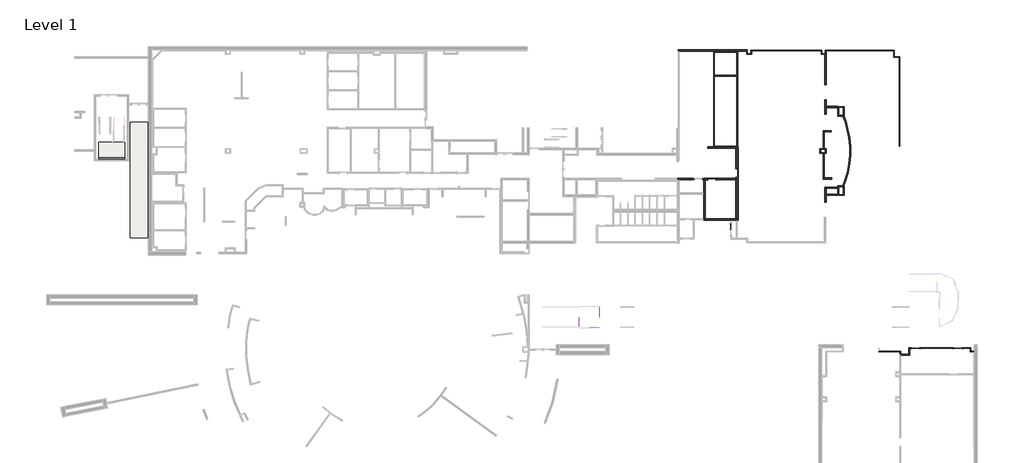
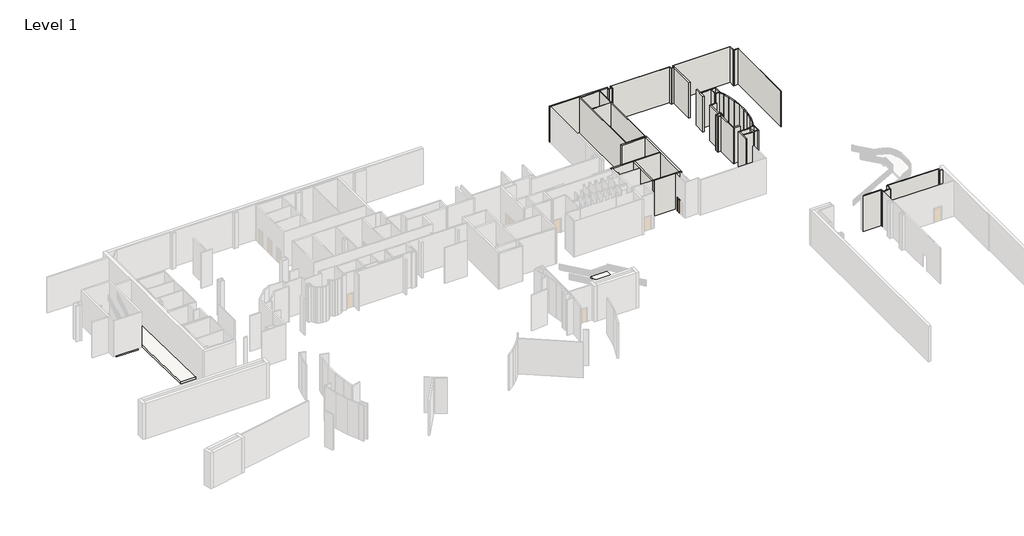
# One storey, part 9 of 10: 60 walls, 5 doors, 4 slabs.
"""IFC4 building model written with IfcOpenShell, lengths in millimetres."""

from ifc_helpers import new_model, si_unit, frame, origin, origin_with_axes, place, context, project, spatial, polyline, outline, extrude, faceted_brep, transform, mapped, element, save
from components import door_808f2bda, door_4e5f50bf, door_9fd2ff77, door_71d5d1be, door_6831372b

model = new_model("IFC4")

# Units and contexts
model_context = context("Model", 3, world=origin())
ifc_project = project(units=[si_unit("LENGTHUNIT", "METRE", prefix="MILLI")], contexts=[model_context])

# Site, building, storey
site = spatial("IfcSite", under=ifc_project)
building = spatial("IfcBuilding", under=site)
storey = spatial("IfcBuildingStorey", under=building, Name="Level 1", Elevation=0.0)

# Doors
placement = place(None, origin())
door_shape = door_808f2bda(model_context)
element("IfcDoor", 1, ObjectType="Single-Flush : 30\" x 80\"", at=placement, inside=storey, context=model_context, shape_type="MappedRepresentation", body=[
    mapped(door_shape, transform((67632.9724216, 16158.9853474, 0.0), x_axis=(0.0, 1.0, 0.0), y_axis=(-1.0, 0.0, 0.0), z_axis=(0.0, 0.0, 1.0))),
])
door_2_shape = door_4e5f50bf(model_context)
element("IfcDoor", 2, ObjectType="Single-Flush : 36\" x 84\"", at=placement, inside=storey, context=model_context, shape_type="MappedRepresentation", body=[
    mapped(door_2_shape, transform((68357.9044789, 22788.3853087, 0.0), x_axis=(0.0, -1.0, 0.0), y_axis=(1.0, 0.0, 0.0), z_axis=(0.0, 0.0, 1.0))),
])
door_3_shape = door_9fd2ff77(model_context)
element("IfcDoor", 3, ObjectType="Single-Flush : 36\" x 84\"", at=placement, inside=storey, context=model_context, shape_type="MappedRepresentation", body=[
    mapped(door_3_shape, transform((65277.1224216, 22026.3853087, 0.0), x_axis=(-1.0, 0.0, 0.0), y_axis=(0.0, -1.0, 0.0), z_axis=(0.0, 0.0, 1.0))),
])
door_4_shape = door_71d5d1be(model_context)
element("IfcDoor", 4, ObjectType="Single-Flush : 36\" x 84\"", at=placement, inside=storey, context=model_context, shape_type="MappedRepresentation", body=[
    mapped(door_4_shape, transform((90266.9450601, 1269.6986918, 0.0), x_axis=(-1.0, 0.0, 0.0), y_axis=(0.0, -1.0, 0.0), z_axis=(0.0, 0.0, 1.0))),
])
door_5_shape = door_6831372b(model_context)
element("IfcDoor", 5, ObjectType="Single-Flush : 36\" x 84\"", at=placement, inside=storey, context=model_context, shape_type="MappedRepresentation", body=[
    mapped(door_5_shape, transform((95490.4224216, 1269.6986918, 0.0), x_axis=(1.0, 0.0, 0.0), y_axis=(0.0, 1.0, 0.0), z_axis=(0.0, 0.0, 1.0))),
])

# Slabs
element("IfcSlab", 6, ObjectType="Generic - 12\"", at=placement, inside=storey, context=model_context, shape_type="SweptSolid", body=[
    extrude(outline(polyline([(49008.9536092, 6384.9429434), (51421.9536092, 6384.9429434), (51421.9536092, 3781.4430198), (49008.9536092, 3781.4430198), (49008.9536092, 6384.9429434)])), frame((0.0, 0.0, 2171.7), z_axis=(0.0, 0.0, 1.0), x_axis=(1.0, 0.0, 0.0)), (0.0, 0.0, 1.0), 304.8),
])
element("IfcSlab", 7, ObjectType="Generic - 12\"", at=placement, inside=storey, context=model_context, shape_type="SweptSolid", body=[
    extrude(outline(polyline([(-10007.6851755, 24718.0763821), (-10007.6851755, 26551.8305304), (-6807.2851755, 26551.8305304), (-6807.2851755, 24718.0763821), (-10007.6851755, 24718.0763821)])), frame((0.0, 0.0, -304.8), z_axis=(0.0, 0.0, 1.0), x_axis=(1.0, 0.0, 0.0)), (0.0, 0.0, 1.0), 304.8),
])
element("IfcSlab", 8, ObjectType="Generic - 12\"", at=placement, inside=storey, context=model_context, shape_type="SweptSolid", body=[
    extrude(outline(polyline([(-6807.2851755, 26551.8305304), (-6807.2851755, 24463.0140388), (-10007.6851755, 24463.0140388), (-10007.6851755, 26551.8305304), (-6807.2851755, 26551.8305304)])), frame((0.0, 0.0, -304.8), z_axis=(0.0, 0.0, 1.0), x_axis=(1.0, 0.0, 0.0)), (0.0, 0.0, 1.0), 304.8),
])
element("IfcSlab", 9, ObjectType="Generic - 12\"", at=placement, inside=storey, context=model_context, shape_type="SweptSolid", body=[
    extrude(outline(polyline([(29036.2594628, -304.8699716), (14812.2594628, -0.0699716), (14812.2594628, 304.8), (29036.2594628, 0.0), (29036.2594628, -304.8699716)])), frame((-6130.5809909, 0.0, 0.0), z_axis=(1.0, 0.0, 0.0), x_axis=(0.0, 1.0, 0.0)), (0.0, 0.0, 1.0), 2194.2909125),
])

# Walls
element("IfcWall", 10, ObjectType="N15A/B", at=placement, inside=storey, context=model_context, shape_type="SweptSolid", body=[
    extrude(outline(polyline([(81738.8043788, 21851.4343495), (81482.3787882, 21183.4228475), (81349.7442594, 21183.4228475), (81621.266332, 21890.7620298), (81738.8043788, 21851.4343495)])), origin_with_axes(), (0.0, 0.0, 1.0), 5486.4),
])
element("IfcWall", 11, ObjectType="N15A/B", at=placement, inside=storey, context=model_context, shape_type="SweptSolid", body=[
    extrude(outline(polyline([(82006.4890056, 22784.9615834), (81738.8043788, 21851.4343495), (81621.266332, 21890.7620298), (81885.6720569, 22812.8543738), (82006.4890056, 22784.9615834)])), origin_with_axes(), (0.0, 0.0, 1.0), 5486.4),
])
element("IfcWall", 12, ObjectType="N15A/B", at=placement, inside=storey, context=model_context, shape_type="SweptSolid", body=[
    extrude(outline(polyline([(82205.9077413, 23915.9214335), (82006.4890056, 22784.9615834), (81885.6720569, 22812.8543738), (82083.2130554, 23933.1650471), (82205.9077413, 23915.9214335)])), origin_with_axes(), (0.0, 0.0, 1.0), 5486.4),
])
element("IfcWall", 13, ObjectType="N15A/B", at=placement, inside=storey, context=model_context, shape_type="SweptSolid", body=[
    extrude(outline(polyline([(82312.673817, 24931.7327894), (82205.9077413, 23915.9214335), (82083.2130554, 23933.1650471), (82188.848817, 24938.2221826), (82312.673817, 24931.7327894)])), origin_with_axes(), (0.0, 0.0, 1.0), 5486.4),
])
element("IfcWall", 14, ObjectType="N15A/B", at=placement, inside=storey, context=model_context, shape_type="SweptSolid", body=[
    extrude(outline(polyline([(82312.673817, 26030.4221826), (82312.673817, 24931.7327894), (82188.848817, 24938.2221826), (82188.848817, 26023.9327894), (82312.673817, 26030.4221826)])), origin_with_axes(), (0.0, 0.0, 1.0), 5486.4),
])
element("IfcWall", 15, ObjectType="N15A/B", at=placement, inside=storey, context=model_context, shape_type="SweptSolid", body=[
    extrude(outline(polyline([(82195.2310864, 27147.8151247), (82312.673817, 26030.4221826), (82188.848817, 26023.9327894), (82072.6495266, 27129.4951878), (82195.2310864, 27147.8151247)])), origin_with_axes(), (0.0, 0.0, 1.0), 5486.4),
])
element("IfcWall", 16, ObjectType="N15A/B", at=placement, inside=storey, context=model_context, shape_type="SweptSolid", body=[
    extrude(outline(polyline([(81985.7979278, 28225.2553214), (82195.2310864, 27147.8151247), (82072.6495266, 27129.4951878), (81865.2795156, 28196.3214106), (81985.7979278, 28225.2553214)])), origin_with_axes(), (0.0, 0.0, 1.0), 5486.4),
])
element("IfcWall", 17, ObjectType="N15A/B", at=placement, inside=storey, context=model_context, shape_type="SweptSolid", body=[
    extrude(outline(polyline([(81746.5655428, 29059.5577964), (81985.7979278, 28225.2553214), (81865.2795156, 28196.3214106), (81628.4310597, 29022.3101369), (81746.5655428, 29059.5577964)])), origin_with_axes(), (0.0, 0.0, 1.0), 5486.4),
])
element("IfcWall", 18, ObjectType="N15A/B", at=placement, inside=storey, context=model_context, shape_type="SweptSolid", body=[
    extrude(outline(polyline([(81502.4148661, 29768.6228475), (81746.5655428, 29059.5577964), (81628.4310597, 29022.3101369), (81371.4549852, 29768.6228475), (81502.4148661, 29768.6228475)])), origin_with_axes(), (0.0, 0.0, 1.0), 5486.4),
])
element("IfcWall", 19, ObjectType="N15A/B", at=placement, inside=storey, context=model_context, shape_type="SweptSolid", body=[
    extrude(outline(polyline([(80721.9099216, 30816.3349813), (79299.5099216, 30816.3349813), (79299.5099216, 30940.1599813), (80721.9099216, 30940.1599813), (80721.9099216, 30816.3349813)])), origin_with_axes(), (0.0, 0.0, 1.0), 5486.4),
])
element("IfcWall", 20, ObjectType="N16B/C", at=placement, inside=storey, context=model_context, shape_type="SweptSolid", body=[
    extrude(outline(polyline([(79971.0224216, 22030.6772222), (79056.6224216, 22030.6772222), (79056.6224216, 22214.8272222), (79971.0224216, 22214.8272222), (79971.0224216, 22030.6772222)])), origin_with_axes(), (0.0, 0.0, 1.0), 5486.4),
])
element("IfcWall", 21, ObjectType="N15A/B", at=placement, inside=storey, context=model_context, shape_type="Brep", body=[
    faceted_brep([(79324.3544789, 20015.0228475, 0.0), (80733.4365238, 20015.0228475, 0.0), (80733.4365238, 20015.0228475, 5486.4), (79324.3544789, 20015.0228475, 5486.4), (79324.3544789, 20138.8478475, 0.0), (79324.3544789, 20138.8478475, 5486.4), (80733.4365238, 20138.8478475, 5486.4), (80733.4365238, 20138.8478475, 0.0), (80733.4365238, 20022.9603475, 0.0), (80733.4365238, 20022.9603475, 5486.4)], [[[0, 1, 2, 3]], [[4, 5, 6, 7]], [[1, 0, 4, 7, 8]], [[3, 2, 9, 6, 5]], [[0, 3, 5, 4]], [[2, 1, 8, 7, 6, 9]]]),
])
element("IfcWall", 22, ObjectType="N15A/B", at=placement, inside=storey, context=model_context, shape_type="SweptSolid", body=[
    extrude(outline(polyline([(80733.4365238, 20895.5594629), (79299.5099216, 20895.5594629), (79299.5099216, 21019.3844629), (80733.4365238, 21019.3844629), (80733.4365238, 20895.5594629)])), origin_with_axes(), (0.0, 0.0, 1.0), 5486.4),
])
element("IfcWall", 23, ObjectType="F1A", at=placement, inside=storey, context=model_context, shape_type="Brep", body=[
    faceted_brep([(70141.2224216, 37807.7228475, 0.0), (78689.9099216, 37807.7228475, 0.0), (78769.2849216, 37807.7228475, 0.0), (78769.2849216, 37807.7228475, 5486.4), (78689.9099216, 37807.7228475, 5486.4), (70141.2224216, 37807.7228475, 5486.4), (70141.2224216, 37864.8728475, 0.0), (70141.2224216, 37864.8728475, 5486.4), (78769.2849216, 37864.8728475, 5486.4), (78769.2849216, 37864.8728475, 0.0)], [[[0, 1, 2, 3, 4, 5]], [[6, 7, 8, 9]], [[2, 1, 0, 6, 9]], [[5, 4, 3, 8, 7]], [[3, 2, 9, 8]], [[0, 5, 7, 6]]]),
])
element("IfcWall", 24, ObjectType="F1A", at=placement, inside=storey, context=model_context, shape_type="Brep", body=[
    faceted_brep([(79220.1349216, 37807.7228475, 0.0), (79299.5099216, 37807.7228475, 0.0), (87605.3099216, 37807.7228475, 0.0), (87605.3099216, 37807.7228475, 5486.4), (79299.5099216, 37807.7228475, 5486.4), (79220.1349216, 37807.7228475, 5486.4), (79220.1349216, 37864.8728475, 0.0), (79220.1349216, 37864.8728475, 5486.4), (87605.3099216, 37864.8728475, 5486.4), (87605.3099216, 37864.8728475, 0.0)], [[[0, 1, 2, 3, 4, 5]], [[6, 7, 8, 9]], [[2, 1, 0, 6, 9]], [[5, 4, 3, 8, 7]], [[0, 5, 7, 6]], [[3, 2, 9, 8]]]),
])
element("IfcWall", 25, ObjectType="F1A", at=placement, inside=storey, context=model_context, shape_type="SweptSolid", body=[
    extrude(outline(polyline([(88278.4099216, 26085.6228465), (88278.4099216, 36963.1728476), (88335.5599216, 36963.1728476), (88335.5599216, 26085.6228465), (88278.4099216, 26085.6228465)])), origin_with_axes(), (0.0, 0.0, 1.0), 5486.4),
])
element("IfcWall", 26, ObjectType="F1B", at=placement, inside=storey, context=model_context, shape_type="Brep", body=[
    faceted_brep([(95998.4224216, 1230.0111918, 2133.6), (95998.4224216, 1230.0111918, 0.0), (96974.7349216, 1230.0111918, 0.0), (97054.1099216, 1230.0111918, 0.0), (97054.1099216, 1230.0111918, 5486.4), (96974.7349216, 1230.0111918, 5486.4), (89558.9200601, 1230.0111918, 5486.4), (89558.9200601, 1230.0111918, 0.0), (89758.9450601, 1230.0111918, 0.0), (89758.9450601, 1230.0111918, 2133.6), (90774.9450601, 1230.0111918, 2133.6), (90774.9450601, 1230.0111918, 0.0), (94982.4224216, 1230.0111918, 0.0), (94982.4224216, 1230.0111918, 2133.6), (97054.1099216, 1309.3861918, 0.0), (95998.4224216, 1309.3861918, 0.0), (95998.4224216, 1309.3861918, 2133.6), (94982.4224216, 1309.3861918, 2133.6), (94982.4224216, 1309.3861918, 0.0), (90774.9450601, 1309.3861918, 0.0), (90774.9450601, 1309.3861918, 2133.6), (89758.9450601, 1309.3861918, 2133.6), (89758.9450601, 1309.3861918, 0.0), (89558.9200601, 1309.3861918, 0.0), (89558.9200601, 1309.3861918, 5486.4), (97054.1099216, 1309.3861918, 5486.4)], [[[0, 1, 2, 3, 4, 5, 6, 7, 8, 9, 10, 11, 12, 13]], [[14, 15, 16, 17, 18, 19, 20, 21, 22, 23, 24, 25]], [[23, 22, 8, 7]], [[3, 2, 1, 15, 14]], [[12, 11, 19, 18]], [[6, 5, 4, 25, 24]], [[4, 3, 14, 25]], [[7, 6, 24, 23]], [[9, 8, 22, 21]], [[10, 9, 21, 20]], [[11, 10, 20, 19]], [[16, 15, 1, 0]], [[17, 16, 0, 13]], [[18, 17, 13, 12]]]),
])
element("IfcWall", 27, ObjectType="F1B", at=placement, inside=storey, context=model_context, shape_type="Brep", body=[
    faceted_brep([(96974.7349216, 1230.0111918, 0.0), (96974.7349216, 810.9111918, 0.0), (96974.7349216, 810.9111918, 5486.4), (96974.7349216, 1230.0111918, 5486.4), (97054.1099216, 1230.0111918, 0.0), (97054.1099216, 1230.0111918, 5486.4), (97054.1099216, 890.2861918, 5486.4), (97054.1099216, 810.9111918, 5486.4), (97054.1099216, 810.9111918, 0.0), (97054.1099216, 890.2861918, 0.0)], [[[0, 1, 2, 3]], [[4, 5, 6, 7, 8, 9]], [[1, 0, 4, 9, 8]], [[3, 2, 7, 6, 5]], [[2, 1, 8, 7]], [[0, 3, 5, 4]]]),
])
element("IfcWall", 28, ObjectType="F1B", at=placement, inside=storey, context=model_context, shape_type="Brep", body=[
    faceted_brep([(97054.1099216, 810.9111918, 0.0), (97419.2349216, 810.9111918, 0.0), (97476.3849216, 810.9111918, 0.0), (97476.3849216, 810.9111918, 5486.4), (97419.2349216, 810.9111918, 5486.4), (97054.1099216, 810.9111918, 5486.4), (97054.1099216, 890.2861918, 0.0), (97054.1099216, 890.2861918, 5486.4), (97476.3849216, 890.2861918, 5486.4), (97476.3849216, 890.2861918, 0.0)], [[[0, 1, 2, 3, 4, 5]], [[6, 7, 8, 9]], [[2, 1, 0, 6, 9]], [[5, 4, 3, 8, 7]], [[3, 2, 9, 8]], [[0, 5, 7, 6]]]),
])
element("IfcWall", 29, ObjectType="F1B", at=placement, inside=storey, context=model_context, shape_type="Brep", body=[
    faceted_brep([(87605.3099216, 37871.2228475, 0.0), (87605.3099216, 37864.8728475, 0.0), (87605.3099216, 37807.7228475, 0.0), (87605.3099216, 36963.1728476, 0.0), (87605.3099216, 36963.1728476, 5486.4), (87605.3099216, 37807.7228475, 5486.4), (87605.3099216, 37864.8728475, 5486.4), (87605.3099216, 37871.2228475, 5486.4), (87684.6849216, 37871.2228475, 0.0), (87684.6849216, 37871.2228475, 5486.4), (87684.6849216, 37042.5478476, 5486.4), (87684.6849216, 36963.1728476, 5486.4), (87684.6849216, 36963.1728476, 0.0), (87684.6849216, 37042.5478476, 0.0)], [[[0, 1, 2, 3, 4, 5, 6, 7]], [[8, 9, 10, 11, 12, 13]], [[3, 2, 1, 0, 8, 13, 12]], [[7, 6, 5, 4, 11, 10, 9]], [[0, 7, 9, 8]], [[4, 3, 12, 11]]]),
])
element("IfcWall", 30, ObjectType="F1B", at=placement, inside=storey, context=model_context, shape_type="Brep", body=[
    faceted_brep([(87684.6849216, 36963.1728476, 0.0), (88278.4099216, 36963.1728476, 0.0), (88335.5599216, 36963.1728476, 0.0), (88341.9099216, 36963.1728476, 0.0), (88341.9099216, 36963.1728476, 5486.4), (88335.5599216, 36963.1728476, 5486.4), (88278.4099216, 36963.1728476, 5486.4), (87684.6849216, 36963.1728476, 5486.4), (87684.6849216, 37042.5478476, 0.0), (87684.6849216, 37042.5478476, 5486.4), (88341.9099216, 37042.5478476, 5486.4), (88341.9099216, 37042.5478476, 0.0)], [[[0, 1, 2, 3, 4, 5, 6, 7]], [[8, 9, 10, 11]], [[3, 2, 1, 0, 8, 11]], [[4, 3, 11, 10]], [[7, 6, 5, 4, 10, 9]], [[0, 7, 9, 8]]]),
])
element("IfcWall", 31, ObjectType="F1B", at=placement, inside=storey, context=model_context, shape_type="Brep", body=[
    faceted_brep([(70061.8474216, 37871.2228475, 0.0), (70061.8474216, 37442.5978474, 0.0), (70061.8474216, 37363.2228474, 0.0), (70061.8474216, 37363.2228474, 5486.4), (70061.8474216, 37442.5978474, 5486.4), (70061.8474216, 37871.2228475, 5486.4), (70141.2224216, 37871.2228475, 0.0), (70141.2224216, 37871.2228475, 5486.4), (70141.2224216, 37864.8728475, 5486.4), (70141.2224216, 37807.7228475, 5486.4), (70141.2224216, 37363.2228474, 5486.4), (70141.2224216, 37363.2228474, 0.0), (70141.2224216, 37807.7228475, 0.0), (70141.2224216, 37864.8728475, 0.0)], [[[0, 1, 2, 3, 4, 5]], [[6, 7, 8, 9, 10, 11, 12, 13]], [[2, 1, 0, 6, 13, 12, 11]], [[5, 4, 3, 10, 9, 8, 7]], [[0, 5, 7, 6]], [[3, 2, 11, 10]]]),
])
element("IfcWall", 32, ObjectType="F1B", at=placement, inside=storey, context=model_context, shape_type="Brep", body=[
    faceted_brep([(69639.5724216, 37363.2228474, 0.0), (69639.5724216, 37442.5978474, 0.0), (69639.5724216, 37728.3478474, 0.0), (69639.5724216, 37728.3478474, 5486.4), (69639.5724216, 37442.5978474, 5486.4), (69639.5724216, 37363.2228474, 5486.4), (69560.1974216, 37363.2228474, 0.0), (69560.1974216, 37363.2228474, 5486.4), (69560.1974216, 37728.3478474, 5486.4), (69560.1974216, 37728.3478474, 0.0)], [[[0, 1, 2, 3, 4, 5]], [[6, 7, 8, 9]], [[2, 1, 0, 6, 9]], [[5, 4, 3, 8, 7]], [[0, 5, 7, 6]], [[3, 2, 9, 8]]]),
])
element("IfcWall", 33, ObjectType="F1B", at=placement, inside=storey, context=model_context, shape_type="SweptSolid", body=[
    extrude(outline(polyline([(70061.8474216, 37363.2228474), (69639.5724216, 37363.2228474), (69639.5724216, 37442.5978474), (70061.8474216, 37442.5978474), (70061.8474216, 37363.2228474)])), origin_with_axes(), (0.0, 0.0, 1.0), 5486.4),
])
element("IfcWall", 34, ObjectType="F1B", at=placement, inside=storey, context=model_context, shape_type="Brep", body=[
    faceted_brep([(78689.9099216, 37807.7228475, 0.0), (78689.9099216, 37363.2228474, 0.0), (78689.9099216, 37363.2228474, 5486.4), (78689.9099216, 37807.7228475, 5486.4), (78769.2849216, 37807.7228475, 0.0), (78769.2849216, 37807.7228475, 5486.4), (78769.2849216, 37442.5978474, 5486.4), (78769.2849216, 37363.2228474, 5486.4), (78769.2849216, 37363.2228474, 0.0), (78769.2849216, 37442.5978474, 0.0)], [[[0, 1, 2, 3]], [[4, 5, 6, 7, 8, 9]], [[1, 0, 4, 9, 8]], [[3, 2, 7, 6, 5]], [[2, 1, 8, 7]], [[0, 3, 5, 4]]]),
])
element("IfcWall", 35, ObjectType="F1B", at=placement, inside=storey, context=model_context, shape_type="SweptSolid", body=[
    extrude(outline(polyline([(79115.3599216, 37363.2228474), (78769.2849216, 37363.2228474), (78769.2849216, 37442.5978474), (79115.3599216, 37442.5978474), (79115.3599216, 37363.2228474)])), origin_with_axes(), (0.0, 0.0, 1.0), 5486.4),
])
element("IfcWall", 36, ObjectType="F1B", at=placement, inside=storey, context=model_context, shape_type="SweptSolid", body=[
    extrude(outline(polyline([(79299.5099216, 37807.7228475), (79299.5099216, 37442.5978474), (79220.1349216, 37442.5978474), (79220.1349216, 37807.7228475), (79299.5099216, 37807.7228475)])), origin_with_axes(), (0.0, 0.0, 1.0), 5486.4),
])
element("IfcWall", 37, ObjectType="F1B", at=placement, inside=storey, context=model_context, shape_type="Brep", body=[
    faceted_brep([(78537.5099216, 25701.4478475, 0.0), (78616.8849216, 25701.4478475, 0.0), (79220.1349216, 25701.4478475, 0.0), (79299.5099216, 25701.4478475, 0.0), (79299.5099216, 25701.4478475, 5486.4), (79220.1349216, 25701.4478475, 5486.4), (78616.8849216, 25701.4478475, 5486.4), (78537.5099216, 25701.4478475, 5486.4), (78537.5099216, 25780.8228475, 0.0), (78537.5099216, 25780.8228475, 5486.4), (78932.7974216, 25780.8228475, 5486.4), (79056.6224216, 25780.8228475, 5486.4), (79299.5099216, 25780.8228475, 5486.4), (79299.5099216, 25780.8228475, 0.0), (79056.6224216, 25780.8228475, 0.0), (78932.7974216, 25780.8228475, 0.0)], [[[0, 1, 2, 3, 4, 5, 6, 7]], [[8, 9, 10, 11, 12, 13, 14, 15]], [[3, 2, 1, 0, 8, 15, 14, 13]], [[7, 6, 5, 4, 12, 11, 10, 9]], [[4, 3, 13, 12]], [[0, 7, 9, 8]]]),
])
element("IfcWall", 38, ObjectType="F1B", at=placement, inside=storey, context=model_context, shape_type="Brep", body=[
    faceted_brep([(79220.1349216, 25701.4478475, 0.0), (79220.1349216, 25250.5978475, 0.0), (79220.1349216, 25171.2228475, 0.0), (79220.1349216, 25171.2228475, 5486.4), (79220.1349216, 25250.5978475, 5486.4), (79220.1349216, 25701.4478475, 5486.4), (79299.5099216, 25701.4478475, 0.0), (79299.5099216, 25701.4478475, 5486.4), (79299.5099216, 25171.2228475, 5486.4), (79299.5099216, 25171.2228475, 0.0)], [[[0, 1, 2, 3, 4, 5]], [[6, 7, 8, 9]], [[2, 1, 0, 6, 9]], [[5, 4, 3, 8, 7]], [[3, 2, 9, 8]], [[0, 5, 7, 6]]]),
])
element("IfcWall", 39, ObjectType="F1B", at=placement, inside=storey, context=model_context, shape_type="Brep", body=[
    faceted_brep([(79220.1349216, 25250.5978475, 0.0), (78616.8849216, 25250.5978475, 0.0), (78537.5099216, 25250.5978475, 0.0), (78537.5099216, 25250.5978475, 5486.4), (78616.8849216, 25250.5978475, 5486.4), (79220.1349216, 25250.5978475, 5486.4), (79220.1349216, 25171.2228475, 0.0), (79220.1349216, 25171.2228475, 5486.4), (79056.6224216, 25171.2228475, 5486.4), (78932.7974216, 25171.2228475, 5486.4), (78537.5099216, 25171.2228475, 5486.4), (78537.5099216, 25171.2228475, 0.0), (78932.7974216, 25171.2228475, 0.0), (79056.6224216, 25171.2228475, 0.0)], [[[0, 1, 2, 3, 4, 5]], [[6, 7, 8, 9, 10, 11, 12, 13]], [[2, 1, 0, 6, 13, 12, 11]], [[5, 4, 3, 10, 9, 8, 7]], [[3, 2, 11, 10]], [[0, 5, 7, 6]]]),
])
element("IfcWall", 40, ObjectType="F1B", at=placement, inside=storey, context=model_context, shape_type="SweptSolid", body=[
    extrude(outline(polyline([(78616.8849216, 25701.4478475), (78616.8849216, 25250.5978475), (78537.5099216, 25250.5978475), (78537.5099216, 25701.4478475), (78616.8849216, 25701.4478475)])), origin_with_axes(), (0.0, 0.0, 1.0), 5486.4),
])
element("IfcWall", 41, ObjectType="F1C", at=placement, inside=storey, context=model_context, shape_type="Brep", body=[
    faceted_brep([(68321.9474216, 37728.3478474, 0.0), (68321.9474216, 37721.9978471, 0.0), (68321.9474216, 37614.0478471, 0.0), (68321.9474216, 34750.1978471, 0.0), (68321.9474216, 34642.2478471, 0.0), (68321.9474216, 26088.7978471, 0.0), (68321.9474216, 25988.7853471, 0.0), (68321.9474216, 25988.7853471, 5486.4), (68321.9474216, 26088.7978471, 5486.4), (68321.9474216, 34642.2478471, 5486.4), (68321.9474216, 34750.1978471, 5486.4), (68321.9474216, 37614.0478471, 5486.4), (68321.9474216, 37721.9978471, 5486.4), (68321.9474216, 37728.3478474, 5486.4), (68429.8974216, 37728.3478474, 0.0), (68429.8974216, 37728.3478474, 5486.4), (68429.8974216, 25988.7853471, 5486.4), (68429.8974216, 25988.7853471, 0.0)], [[[0, 1, 2, 3, 4, 5, 6, 7, 8, 9, 10, 11, 12, 13]], [[14, 15, 16, 17]], [[6, 5, 4, 3, 2, 1, 0, 14, 17]], [[13, 12, 11, 10, 9, 8, 7, 16, 15]], [[0, 13, 15, 14]], [[7, 6, 17, 16]]]),
])
element("IfcWall", 42, ObjectType="F1C", at=placement, inside=storey, context=model_context, shape_type="Brep", body=[
    faceted_brep([(65588.388319, 25988.7853471, 0.0), (65588.388319, 26088.7978471, 0.0), (65588.388319, 34642.2478471, 0.0), (65588.388319, 34750.1978471, 0.0), (65588.388319, 37614.0478471, 0.0), (65588.388319, 37721.9978471, 0.0), (65588.388319, 37728.3478474, 0.0), (65588.388319, 37728.3478474, 5486.4), (65588.388319, 37721.9978471, 5486.4), (65588.388319, 37614.0478471, 5486.4), (65588.388319, 34750.1978471, 5486.4), (65588.388319, 34642.2478471, 5486.4), (65588.388319, 26088.7978471, 5486.4), (65588.388319, 25988.7853471, 5486.4), (65480.438319, 25988.7853471, 0.0), (65480.438319, 25988.7853471, 5486.4), (65480.438319, 37728.3478474, 5486.4), (65480.438319, 37728.3478474, 0.0)], [[[0, 1, 2, 3, 4, 5, 6, 7, 8, 9, 10, 11, 12, 13]], [[14, 15, 16, 17]], [[6, 5, 4, 3, 2, 1, 0, 14, 17]], [[13, 12, 11, 10, 9, 8, 7, 16, 15]], [[0, 13, 15, 14]], [[7, 6, 17, 16]]]),
])
element("IfcWall", 43, ObjectType="F1C", at=placement, inside=storey, context=model_context, shape_type="SweptSolid", body=[
    extrude(outline(polyline([(68321.9474216, 34642.2478471), (65588.388319, 34642.2478471), (65588.388319, 34750.1978471), (68321.9474216, 34750.1978471), (68321.9474216, 34642.2478471)])), origin_with_axes(), (0.0, 0.0, 1.0), 5486.4),
])
element("IfcWall", 44, ObjectType="F1C", at=placement, inside=storey, context=model_context, shape_type="SweptSolid", body=[
    extrude(outline(polyline([(68321.9474216, 37614.0478471), (65588.388319, 37614.0478471), (65588.388319, 37721.9978471), (68321.9474216, 37721.9978471), (68321.9474216, 37614.0478471)])), origin_with_axes(), (0.0, 0.0, 1.0), 5486.4),
])
element("IfcWall", 45, ObjectType="F1C", at=placement, inside=storey, context=model_context, shape_type="Brep", body=[
    faceted_brep([(65588.388319, 25980.8478471, 0.0), (68321.9474216, 25980.8478471, 0.0), (68321.9474216, 25980.8478471, 5486.4), (65588.388319, 25980.8478471, 5486.4), (65588.388319, 26088.7978471, 0.0), (65588.388319, 26088.7978471, 5486.4), (68321.9474216, 26088.7978471, 5486.4), (68321.9474216, 26088.7978471, 0.0), (65588.388319, 25988.7853471, 0.0), (68321.9474216, 25988.7853471, 0.0), (68321.9474216, 25988.7853471, 5486.4), (65588.388319, 25988.7853471, 5486.4)], [[[0, 1, 2, 3]], [[4, 5, 6, 7]], [[1, 0, 8, 4, 7, 9]], [[3, 2, 10, 6, 5, 11]], [[2, 1, 9, 7, 6, 10]], [[0, 3, 11, 5, 4, 8]]]),
])
element("IfcWall", 46, ObjectType="F1C", at=placement, inside=storey, context=model_context, shape_type="Brep", body=[
    faceted_brep([(80733.4365238, 30937.0228475, 0.0), (80733.4365238, 29768.6228475, 0.0), (80733.4365238, 29768.6228475, 5486.4), (80733.4365238, 30937.0228475, 5486.4), (80841.3865238, 30937.0228475, 0.0), (80841.3865238, 30937.0228475, 5486.4), (80841.3865238, 30829.0728475, 5486.4), (80841.3865238, 29876.5728475, 5486.4), (80841.3865238, 29768.6228475, 5486.4), (80841.3865238, 29768.6228475, 0.0), (80841.3865238, 29876.5728475, 0.0), (80841.3865238, 30829.0728475, 0.0)], [[[0, 1, 2, 3]], [[4, 5, 6, 7, 8, 9, 10, 11]], [[1, 0, 4, 11, 10, 9]], [[3, 2, 8, 7, 6, 5]], [[2, 1, 9, 8]], [[0, 3, 5, 4]]]),
])
element("IfcWall", 47, ObjectType="F1C", at=placement, inside=storey, context=model_context, shape_type="Brep", body=[
    faceted_brep([(80841.3865238, 29768.6228475, 0.0), (81371.4549852, 29768.6228475, 0.0), (81502.4148661, 29768.6228475, 0.0), (81520.8365238, 29768.6228475, 0.0), (81520.8365238, 29768.6228475, 5486.4), (81502.4148661, 29768.6228475, 5486.4), (81371.4549852, 29768.6228475, 5486.4), (80841.3865238, 29768.6228475, 5486.4), (80841.3865238, 29876.5728475, 0.0), (80841.3865238, 29876.5728475, 5486.4), (81412.8865238, 29876.5728475, 5486.4), (81520.8365238, 29876.5728475, 5486.4), (81520.8365238, 29876.5728475, 0.0), (81412.8865238, 29876.5728475, 0.0)], [[[0, 1, 2, 3, 4, 5, 6, 7]], [[8, 9, 10, 11, 12, 13]], [[3, 2, 1, 0, 8, 13, 12]], [[7, 6, 5, 4, 11, 10, 9]], [[4, 3, 12, 11]], [[0, 7, 9, 8]]]),
])
element("IfcWall", 48, ObjectType="F1C", at=placement, inside=storey, context=model_context, shape_type="Brep", body=[
    faceted_brep([(81520.8365238, 29876.5728475, 0.0), (81520.8365238, 30937.0228475, 0.0), (81520.8365238, 30937.0228475, 5486.4), (81520.8365238, 29876.5728475, 5486.4), (81412.8865238, 29876.5728475, 0.0), (81412.8865238, 29876.5728475, 5486.4), (81412.8865238, 30829.0728475, 5486.4), (81412.8865238, 30937.0228475, 5486.4), (81412.8865238, 30937.0228475, 0.0), (81412.8865238, 30829.0728475, 0.0)], [[[0, 1, 2, 3]], [[4, 5, 6, 7, 8, 9]], [[1, 0, 4, 9, 8]], [[3, 2, 7, 6, 5]], [[2, 1, 8, 7]], [[0, 3, 5, 4]]]),
])
element("IfcWall", 49, ObjectType="F1C", at=placement, inside=storey, context=model_context, shape_type="SweptSolid", body=[
    extrude(outline(polyline([(80841.3865238, 30937.0228475), (81412.8865238, 30937.0228475), (81412.8865238, 30829.0728475), (80841.3865238, 30829.0728475), (80841.3865238, 30937.0228475)])), origin_with_axes(), (0.0, 0.0, 1.0), 5486.4),
])
element("IfcWall", 50, ObjectType="F1C", at=placement, inside=storey, context=model_context, shape_type="Brep", body=[
    faceted_brep([(80841.3865238, 20022.9603475, 0.0), (80841.3865238, 20130.9103475, 0.0), (80841.3865238, 21075.4728475, 0.0), (80841.3865238, 21183.4228475, 0.0), (80841.3865238, 21183.4228475, 5486.4), (80841.3865238, 21075.4728475, 5486.4), (80841.3865238, 20130.9103475, 5486.4), (80841.3865238, 20022.9603475, 5486.4), (80733.4365238, 20022.9603475, 0.0), (80733.4365238, 20022.9603475, 5486.4), (80733.4365238, 20138.8478475, 5486.4), (80733.4365238, 20895.5594629, 5486.4), (80733.4365238, 21019.3844629, 5486.4), (80733.4365238, 21183.4228475, 5486.4), (80733.4365238, 21183.4228475, 0.0), (80733.4365238, 21019.3844629, 0.0), (80733.4365238, 20895.5594629, 0.0), (80733.4365238, 20138.8478475, 0.0)], [[[0, 1, 2, 3, 4, 5, 6, 7]], [[8, 9, 10, 11, 12, 13, 14, 15, 16, 17]], [[3, 2, 1, 0, 8, 17, 16, 15, 14]], [[7, 6, 5, 4, 13, 12, 11, 10, 9]], [[4, 3, 14, 13]], [[0, 7, 9, 8]]]),
])
element("IfcWall", 51, ObjectType="F1C", at=placement, inside=storey, context=model_context, shape_type="Brep", body=[
    faceted_brep([(80841.3865238, 21075.4728475, 0.0), (81412.8865238, 21075.4728475, 0.0), (81520.8365238, 21075.4728475, 0.0), (81520.8365238, 21075.4728475, 5486.4), (81412.8865238, 21075.4728475, 5486.4), (80841.3865238, 21075.4728475, 5486.4), (80841.3865238, 21183.4228475, 0.0), (80841.3865238, 21183.4228475, 5486.4), (81349.7442594, 21183.4228475, 5486.4), (81482.3787882, 21183.4228475, 5486.4), (81520.8365238, 21183.4228475, 5486.4), (81520.8365238, 21183.4228475, 0.0), (81482.3787882, 21183.4228475, 0.0), (81349.7442594, 21183.4228475, 0.0)], [[[0, 1, 2, 3, 4, 5]], [[6, 7, 8, 9, 10, 11, 12, 13]], [[2, 1, 0, 6, 13, 12, 11]], [[5, 4, 3, 10, 9, 8, 7]], [[3, 2, 11, 10]], [[0, 5, 7, 6]]]),
])
element("IfcWall", 52, ObjectType="F1C", at=placement, inside=storey, context=model_context, shape_type="Brep", body=[
    faceted_brep([(81412.8865238, 21075.4728475, 0.0), (81412.8865238, 20130.9103475, 0.0), (81412.8865238, 20022.9603475, 0.0), (81412.8865238, 20022.9603475, 5486.4), (81412.8865238, 20130.9103475, 5486.4), (81412.8865238, 21075.4728475, 5486.4), (81520.8365238, 21075.4728475, 0.0), (81520.8365238, 21075.4728475, 5486.4), (81520.8365238, 20022.9603475, 5486.4), (81520.8365238, 20022.9603475, 0.0)], [[[0, 1, 2, 3, 4, 5]], [[6, 7, 8, 9]], [[2, 1, 0, 6, 9]], [[5, 4, 3, 8, 7]], [[3, 2, 9, 8]], [[0, 5, 7, 6]]]),
])
element("IfcWall", 53, ObjectType="F1C", at=placement, inside=storey, context=model_context, shape_type="SweptSolid", body=[
    extrude(outline(polyline([(80841.3865238, 20130.9103475), (81412.8865238, 20130.9103475), (81412.8865238, 20022.9603475), (80841.3865238, 20022.9603475), (80841.3865238, 20130.9103475)])), origin_with_axes(), (0.0, 0.0, 1.0), 5486.4),
])
element("IfcWall", 54, ObjectType="F2A", at=placement, inside=storey, context=model_context, shape_type="Brep", body=[
    faceted_brep([(89450.9700601, 1309.3861918, 0.0), (89450.9700601, 494.9986918, 0.0), (89450.9700601, 387.0486918, 0.0), (89450.9700601, 387.0486918, 5486.4), (89450.9700601, 494.9986918, 5486.4), (89450.9700601, 1309.3861918, 5486.4), (89558.9200601, 1309.3861918, 0.0), (89558.9200601, 1309.3861918, 5486.4), (89558.9200601, 1230.0111918, 5486.4), (89558.9200601, 387.0486918, 5486.4), (89558.9200601, 387.0486918, 0.0), (89558.9200601, 1230.0111918, 0.0)], [[[0, 1, 2, 3, 4, 5]], [[6, 7, 8, 9, 10, 11]], [[2, 1, 0, 6, 11, 10]], [[5, 4, 3, 9, 8, 7]], [[3, 2, 10, 9]], [[0, 5, 7, 6]]]),
])
element("IfcWall", 55, ObjectType="F2A", at=placement, inside=storey, context=model_context, shape_type="SweptSolid", body=[
    extrude(outline(polyline([(88467.3224216, 494.9986918), (89450.9700601, 494.9986918), (89450.9700601, 387.0486918), (88467.3224216, 387.0486918), (88467.3224216, 494.9986918)])), origin_with_axes(), (0.0, 0.0, 1.0), 5486.4),
])
element("IfcWall", 56, ObjectType="F2A", at=placement, inside=storey, context=model_context, shape_type="Brep", body=[
    faceted_brep([(88459.3849216, 494.9986918, 0.0), (88459.3849216, 904.5736918, 0.0), (88459.3849216, 904.5736918, 5486.4), (88459.3849216, 494.9986918, 5486.4), (88351.4349216, 494.9986918, 0.0), (88351.4349216, 494.9986918, 5486.4), (88351.4349216, 796.6236918, 5486.4), (88351.4349216, 904.5736918, 5486.4), (88351.4349216, 904.5736918, 0.0), (88351.4349216, 796.6236918, 0.0)], [[[0, 1, 2, 3]], [[4, 5, 6, 7, 8, 9]], [[1, 0, 4, 9, 8]], [[3, 2, 7, 6, 5]], [[2, 1, 8, 7]], [[0, 3, 5, 4]]]),
])
element("IfcWall", 57, ObjectType="F2A", at=placement, inside=storey, context=model_context, shape_type="Brep", body=[
    faceted_brep([(85747.9349216, 796.6236918, 0.0), (88351.4349216, 796.6236918, 0.0), (88351.4349216, 796.6236918, 5486.4), (85747.9349216, 796.6236918, 5486.4), (85747.9349216, 904.5736918, 0.0), (85747.9349216, 904.5736918, 5486.4), (85855.8849216, 904.5736918, 5486.4), (88351.4349216, 904.5736918, 5486.4), (88351.4349216, 904.5736918, 0.0), (85855.8849216, 904.5736918, 0.0)], [[[0, 1, 2, 3]], [[4, 5, 6, 7, 8, 9]], [[1, 0, 4, 9, 8]], [[3, 2, 7, 6, 5]], [[0, 3, 5, 4]], [[2, 1, 8, 7]]]),
])
element("IfcWall", 58, ObjectType="N1A", at=placement, inside=storey, context=model_context, shape_type="Brep", body=[
    faceted_brep([(79056.6224216, 25780.8228475, 0.0), (79056.6224216, 27853.4311704, 0.0), (79056.6224216, 27977.2561704, 0.0), (79056.6224216, 27977.2561704, 5486.4), (79056.6224216, 27853.4311704, 5486.4), (79056.6224216, 25780.8228475, 5486.4), (78932.7974216, 25780.8228475, 0.0), (78932.7974216, 25780.8228475, 5486.4), (78932.7974216, 27977.2561704, 5486.4), (78932.7974216, 27977.2561704, 0.0)], [[[0, 1, 2, 3, 4, 5]], [[6, 7, 8, 9]], [[2, 1, 0, 6, 9]], [[5, 4, 3, 8, 7]], [[3, 2, 9, 8]], [[0, 5, 7, 6]]]),
])
element("IfcWall", 59, ObjectType="N1A", at=placement, inside=storey, context=model_context, shape_type="SweptSolid", body=[
    extrude(outline(polyline([(79909.1099216, 27853.4311704), (79056.6224216, 27853.4311704), (79056.6224216, 27977.2561704), (79909.1099216, 27977.2561704), (79909.1099216, 27853.4311704)])), origin_with_axes(), (0.0, 0.0, 1.0), 5486.4),
])
element("IfcWall", 60, ObjectType="N1A", at=placement, inside=storey, context=model_context, shape_type="Brep", body=[
    faceted_brep([(78932.7974216, 25171.2228475, 0.0), (78932.7974216, 22010.5103475, 0.0), (78932.7974216, 22010.5103475, 5486.4), (78932.7974216, 25171.2228475, 5486.4), (79056.6224216, 25171.2228475, 0.0), (79056.6224216, 25171.2228475, 5486.4), (79056.6224216, 22214.8272222, 5486.4), (79056.6224216, 22030.6772222, 5486.4), (79056.6224216, 22010.5103475, 5486.4), (79056.6224216, 22010.5103475, 0.0), (79056.6224216, 22030.6772222, 0.0), (79056.6224216, 22214.8272222, 0.0)], [[[0, 1, 2, 3]], [[4, 5, 6, 7, 8, 9, 10, 11]], [[1, 0, 4, 11, 10, 9]], [[2, 1, 9, 8]], [[3, 2, 8, 7, 6, 5]], [[0, 3, 5, 4]]]),
])
element("IfcWall", 61, ObjectType="N1B", at=placement, inside=storey, context=model_context, shape_type="Brep", body=[
    faceted_brep([(64454.7974216, 16981.3103474, 0.0), (64454.7974216, 17165.4603474, 0.0), (64454.7974216, 21934.3103087, 0.0), (64454.7974216, 21934.3103087, 5486.4), (64454.7974216, 17165.4603474, 5486.4), (64454.7974216, 16981.3103474, 5486.4), (64270.6474216, 16981.3103474, 0.0), (64270.6474216, 16981.3103474, 5486.4), (64270.6474216, 17011.4728474, 5486.4), (64270.6474216, 17135.2978474, 5486.4), (64270.6474216, 20181.7103471, 5486.4), (64270.6474216, 20365.8603471, 5486.4), (64270.6474216, 21934.3103087, 5486.4), (64270.6474216, 21934.3103087, 0.0), (64270.6474216, 20365.8603471, 0.0), (64270.6474216, 20181.7103471, 0.0), (64270.6474216, 17135.2978474, 0.0), (64270.6474216, 17011.4728474, 0.0)], [[[0, 1, 2, 3, 4, 5]], [[6, 7, 8, 9, 10, 11, 12, 13, 14, 15, 16, 17]], [[2, 1, 0, 6, 17, 16, 15, 14, 13]], [[5, 4, 3, 12, 11, 10, 9, 8, 7]], [[0, 5, 7, 6]], [[3, 2, 13, 12]]]),
])
element("IfcWall", 62, ObjectType="N1B", at=placement, inside=storey, context=model_context, shape_type="Brep", body=[
    faceted_brep([(64454.7974216, 16981.3103474, 0.0), (67571.0599216, 16981.3103474, 0.0), (67694.8849216, 16981.3103474, 0.0), (68250.5099216, 16981.3103474, 0.0), (68374.3349216, 16981.3103474, 0.0), (68489.6669789, 16981.3103474, 0.0), (68489.6669789, 16981.3103474, 5486.4), (68374.3349216, 16981.3103474, 5486.4), (68250.5099216, 16981.3103474, 5486.4), (67694.8849216, 16981.3103474, 5486.4), (67571.0599216, 16981.3103474, 5486.4), (64454.7974216, 16981.3103474, 5486.4), (64454.7974216, 17165.4603474, 0.0), (64454.7974216, 17165.4603474, 5486.4), (68226.1419789, 17165.4603474, 5486.4), (68489.6669789, 17165.4603474, 5486.4), (68489.6669789, 17165.4603474, 0.0), (68226.1419789, 17165.4603474, 0.0)], [[[0, 1, 2, 3, 4, 5, 6, 7, 8, 9, 10, 11]], [[12, 13, 14, 15, 16, 17]], [[5, 4, 3, 2, 1, 0, 12, 17, 16]], [[11, 10, 9, 8, 7, 6, 15, 14, 13]], [[6, 5, 16, 15]], [[0, 11, 13, 12]]]),
])
element("IfcWall", 63, ObjectType="N1B", at=placement, inside=storey, context=model_context, shape_type="Brep", body=[
    faceted_brep([(64769.1224216, 22118.4603087, 2133.6), (64769.1224216, 22118.4603087, 0.0), (64108.7224216, 22118.4603087, 0.0), (64108.7224216, 22118.4603087, 2133.6), (63092.7224216, 22118.4603087, 2133.6), (63092.7224216, 22118.4603087, 0.0), (61076.5974216, 22118.4603087, 0.0), (61076.5974216, 22118.4603087, 5486.4), (68226.1419789, 22118.4603087, 5486.4), (68226.1419789, 22118.4603087, 0.0), (65785.1224216, 22118.4603087, 0.0), (65785.1224216, 22118.4603087, 2133.6), (64108.7224216, 21934.3103087, 0.0), (64270.6474216, 21934.3103087, 0.0), (64454.7974216, 21934.3103087, 0.0), (64769.1224216, 21934.3103087, 0.0), (64769.1224216, 21934.3103087, 2133.6), (65785.1224216, 21934.3103087, 2133.6), (65785.1224216, 21934.3103087, 0.0), (68226.1419789, 21934.3103087, 0.0), (68226.1419789, 21934.3103087, 5486.4), (64454.7974216, 21934.3103087, 5486.4), (64270.6474216, 21934.3103087, 5486.4), (61260.7474216, 21934.3103087, 5486.4), (61076.5974216, 21934.3103087, 5486.4), (61076.5974216, 21934.3103087, 0.0), (61260.7474216, 21934.3103087, 0.0), (63092.7224216, 21934.3103087, 0.0), (63092.7224216, 21934.3103087, 2133.6), (64108.7224216, 21934.3103087, 2133.6)], [[[0, 1, 2, 3, 4, 5, 6, 7, 8, 9, 10, 11]], [[12, 13, 14, 15, 16, 17, 18, 19, 20, 21, 22, 23, 24, 25, 26, 27, 28, 29]], [[2, 1, 15, 14, 13, 12]], [[27, 26, 25, 6, 5]], [[10, 9, 19, 18]], [[8, 7, 24, 23, 22, 21, 20]], [[7, 6, 25, 24]], [[9, 8, 20, 19]], [[3, 2, 12, 29]], [[4, 3, 29, 28]], [[5, 4, 28, 27]], [[16, 15, 1, 0]], [[17, 16, 0, 11]], [[18, 17, 11, 10]]]),
])
element("IfcWall", 64, ObjectType="N1B", at=placement, inside=storey, context=model_context, shape_type="Brep", body=[
    faceted_brep([(61170.2599216, 37728.3478474, 0.0), (61278.2099216, 37728.3478474, 0.0), (65480.438319, 37728.3478474, 0.0), (65588.388319, 37728.3478474, 0.0), (68321.9474216, 37728.3478474, 0.0), (68429.8974216, 37728.3478474, 0.0), (69560.1974216, 37728.3478474, 0.0), (69639.5724216, 37728.3478474, 0.0), (69639.5724216, 37728.3478474, 5486.4), (69560.1974216, 37728.3478474, 5486.4), (68429.8974216, 37728.3478474, 5486.4), (68321.9474216, 37728.3478474, 5486.4), (65588.388319, 37728.3478474, 5486.4), (65480.438319, 37728.3478474, 5486.4), (61278.2099216, 37728.3478474, 5486.4), (61170.2599216, 37728.3478474, 5486.4), (61170.2599216, 37912.4978474, 0.0), (61170.2599216, 37912.4978474, 5486.4), (69639.5724216, 37912.4978474, 5486.4), (69639.5724216, 37912.4978474, 0.0)], [[[0, 1, 2, 3, 4, 5, 6, 7, 8, 9, 10, 11, 12, 13, 14, 15]], [[16, 17, 18, 19]], [[7, 6, 5, 4, 3, 2, 1, 0, 16, 19]], [[15, 14, 13, 12, 11, 10, 9, 8, 18, 17]], [[8, 7, 19, 18]], [[0, 15, 17, 16]]]),
])
element("IfcWall", 65, ObjectType="N1B", at=placement, inside=storey, context=model_context, shape_type="Brep", body=[
    faceted_brep([(79299.5099216, 29998.8103474, 0.0), (79299.5099216, 30816.3349813, 0.0), (79299.5099216, 30940.1599813, 0.0), (79299.5099216, 31757.6846152, 0.0), (79299.5099216, 31757.6846152, 5486.4), (79299.5099216, 30940.1599813, 5486.4), (79299.5099216, 30816.3349813, 5486.4), (79299.5099216, 29998.8103474, 5486.4), (79115.3599216, 29998.8103474, 0.0), (79115.3599216, 29998.8103474, 5486.4), (79115.3599216, 31757.6846152, 5486.4), (79115.3599216, 31757.6846152, 0.0)], [[[0, 1, 2, 3, 4, 5, 6, 7]], [[8, 9, 10, 11]], [[3, 2, 1, 0, 8, 11]], [[4, 3, 11, 10]], [[7, 6, 5, 4, 10, 9]], [[0, 7, 9, 8]]]),
])
element("IfcWall", 66, ObjectType="N1B", at=placement, inside=storey, context=model_context, shape_type="Brep", body=[
    faceted_brep([(79299.5099216, 33586.4846151, 0.0), (79299.5099216, 37442.5978474, 0.0), (79299.5099216, 37442.5978474, 5486.4), (79299.5099216, 33586.4846151, 5486.4), (79115.3599216, 33586.4846151, 0.0), (79115.3599216, 33586.4846151, 5486.4), (79115.3599216, 37363.2228474, 5486.4), (79115.3599216, 37442.5978474, 5486.4), (79115.3599216, 37442.5978474, 0.0), (79115.3599216, 37363.2228474, 0.0), (79220.1349216, 37442.5978474, 0.0), (79220.1349216, 37442.5978474, 5486.4)], [[[0, 1, 2, 3]], [[4, 5, 6, 7, 8, 9]], [[1, 0, 4, 9, 8, 10]], [[3, 2, 11, 7, 6, 5]], [[0, 3, 5, 4]], [[2, 1, 10, 8, 7, 11]]]),
])
element("IfcWall", 67, ObjectType="N1B", at=placement, inside=storey, context=model_context, shape_type="Brep", body=[
    faceted_brep([(79299.5099216, 19194.3610797, 0.0), (79299.5099216, 20895.5594629, 0.0), (79299.5099216, 21019.3844629, 0.0), (79299.5099216, 21019.3844629, 5486.4), (79299.5099216, 20895.5594629, 5486.4), (79299.5099216, 19194.3610797, 5486.4), (79115.3599216, 19194.3610797, 0.0), (79115.3599216, 19194.3610797, 5486.4), (79115.3599216, 21019.3844629, 5486.4), (79115.3599216, 21019.3844629, 0.0)], [[[0, 1, 2, 3, 4, 5]], [[6, 7, 8, 9]], [[2, 1, 0, 6, 9]], [[5, 4, 3, 8, 7]], [[0, 5, 7, 6]], [[3, 2, 9, 8]]]),
])
element("IfcWall", 68, ObjectType="N5C", at=placement, inside=storey, context=model_context, shape_type="Brep", body=[
    faceted_brep([(64770.7098832, 25785.5853471, 0.0), (68226.1419789, 25785.5853471, 0.0), (68489.6669789, 25785.5853471, 0.0), (68489.6669789, 25785.5853471, 5486.4), (68226.1419789, 25785.5853471, 5486.4), (64770.7098832, 25785.5853471, 5486.4), (64770.7098832, 25988.7853471, 0.0), (64770.7098832, 25988.7853471, 5486.4), (65480.438319, 25988.7853471, 5486.4), (65588.388319, 25988.7853471, 5486.4), (68321.9474216, 25988.7853471, 5486.4), (68429.8974216, 25988.7853471, 5486.4), (68489.6669789, 25988.7853471, 5486.4), (68489.6669789, 25988.7853471, 0.0), (68429.8974216, 25988.7853471, 0.0), (68321.9474216, 25988.7853471, 0.0), (65588.388319, 25988.7853471, 0.0), (65480.438319, 25988.7853471, 0.0)], [[[0, 1, 2, 3, 4, 5]], [[6, 7, 8, 9, 10, 11, 12, 13, 14, 15, 16, 17]], [[2, 1, 0, 6, 17, 16, 15, 14, 13]], [[5, 4, 3, 12, 11, 10, 9, 8, 7]], [[0, 5, 7, 6]], [[3, 2, 13, 12]]]),
])
element("IfcWall", 69, ObjectType="N6A", at=placement, inside=storey, context=model_context, shape_type="Brep", body=[
    faceted_brep([(68489.6669789, 17165.4603474, 0.0), (68489.6669789, 22280.3853087, 0.0), (68489.6669789, 22280.3853087, 2133.6), (68489.6669789, 23296.3853087, 2133.6), (68489.6669789, 23296.3853087, 0.0), (68489.6669789, 25785.5853471, 0.0), (68489.6669789, 25785.5853471, 5486.4), (68489.6669789, 17165.4603474, 5486.4), (68226.1419789, 22280.3853087, 2133.6), (68226.1419789, 22280.3853087, 0.0), (68226.1419789, 22118.4603087, 0.0), (68226.1419789, 21934.3103087, 0.0), (68226.1419789, 17165.4603474, 0.0), (68226.1419789, 17165.4603474, 5486.4), (68226.1419789, 21934.3103087, 5486.4), (68226.1419789, 22118.4603087, 5486.4), (68226.1419789, 25785.5853471, 5486.4), (68226.1419789, 25785.5853471, 0.0), (68226.1419789, 23296.3853087, 0.0), (68226.1419789, 23296.3853087, 2133.6)], [[[0, 1, 2, 3, 4, 5, 6, 7]], [[8, 9, 10, 11, 12, 13, 14, 15, 16, 17, 18, 19]], [[12, 11, 10, 9, 1, 0]], [[18, 17, 5, 4]], [[7, 6, 16, 15, 14, 13]], [[0, 7, 13, 12]], [[6, 5, 17, 16]], [[2, 1, 9, 8]], [[3, 2, 8, 19]], [[4, 3, 19, 18]]]),
])

save(model, "model.ifc")
